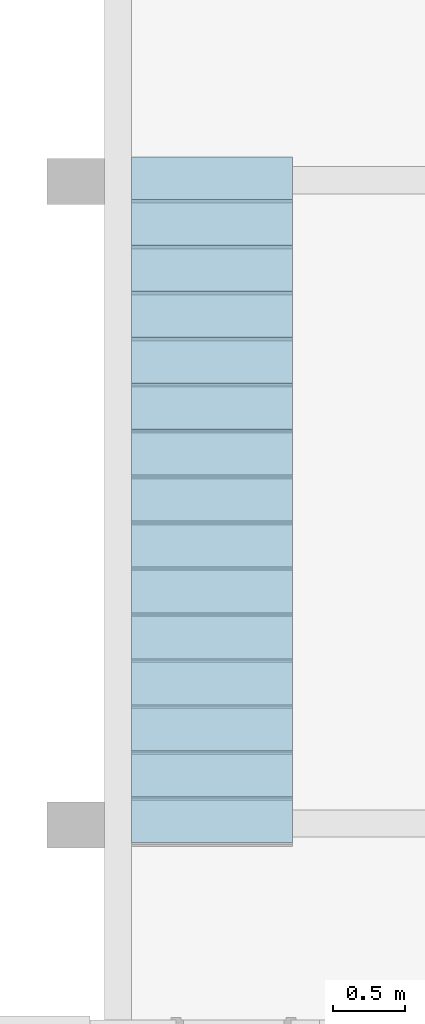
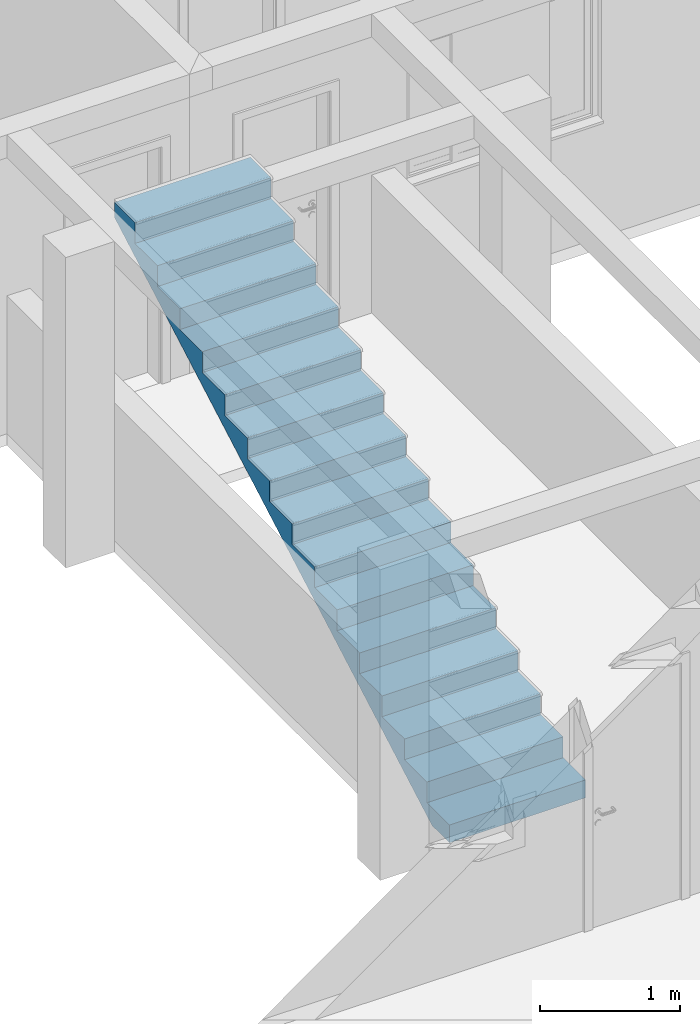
# One storey, part 47 of 47: 1 stair flight, 1 element without a shape of its own.
"""IFC2X3 building model written with IfcOpenShell, lengths in millimetres."""

from ifc_helpers import new_model, entity, si_unit, converted_unit, derived_unit, money_unit, direction, frame, origin_with_axes, place, context, subcontext, project, spatial, faceted_brep, material, type_object, element, aggregate, save


model = new_model("IFC2X3")

# Units and contexts
model_context = context("Model", 3, precision=0.01, world=origin_with_axes(), true_north=direction((0.0, 1.0)))
body_context = subcontext(model_context, "Body", "Model", "MODEL_VIEW")
ifc_project = project(units=[si_unit("LENGTHUNIT", "METRE", prefix="MILLI"), si_unit("AREAUNIT", "SQUARE_METRE"), si_unit("VOLUMEUNIT", "CUBIC_METRE"), converted_unit("PLANEANGLEUNIT", "DEGREE", entity("IfcPlaneAngleMeasure", 0.0174532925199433), si_unit("PLANEANGLEUNIT", "RADIAN"), dimensions=[0, 0, 0, 0, 0, 0, 0]), money_unit("USD"), converted_unit("TIMEUNIT", "Year", entity("IfcTimeMeasure", 31557600.0), si_unit("TIMEUNIT", "SECOND"), dimensions=[0, 0, 1, 0, 0, 0, 0]), si_unit("MASSUNIT", "GRAM", prefix="KILO"), si_unit("THERMODYNAMICTEMPERATUREUNIT", "DEGREE_CELSIUS"), si_unit("LUMINOUSINTENSITYUNIT", "LUMEN"), si_unit("ENERGYUNIT", "JOULE", prefix="MEGA"), derived_unit("THERMALCONDUCTANCEUNIT", [(si_unit("POWERUNIT", "WATT"), 1), (si_unit("LENGTHUNIT", "METRE"), -1), (si_unit("THERMODYNAMICTEMPERATUREUNIT", "KELVIN"), -1)]), derived_unit("SPECIFICHEATCAPACITYUNIT", [(si_unit("ENERGYUNIT", "JOULE"), 1), (si_unit("MASSUNIT", "GRAM", prefix="KILO"), -1), (si_unit("THERMODYNAMICTEMPERATUREUNIT", "KELVIN"), -1)]), derived_unit("MASSDENSITYUNIT", [(si_unit("MASSUNIT", "GRAM", prefix="KILO"), 1), (si_unit("VOLUMEUNIT", "CUBIC_METRE"), -1)])], contexts=[model_context])

# Site, building, storey
site_placement = place(None, origin_with_axes())
site = spatial("IfcSite", under=ifc_project, at=site_placement, Name="Local", CompositionType="ELEMENT")
building_placement = place(site_placement, origin_with_axes())
building = spatial("IfcBuilding", under=site, at=building_placement, Name="Construção", CompositionType="ELEMENT")
storey_placement = place(building_placement, origin_with_axes())
storey = spatial("IfcBuildingStorey", under=building, at=storey_placement, Name="Pavimento Tipo", CompositionType="ELEMENT", Elevation=0.0)

# Stair, stair flight
stair_placement = place(storey_placement, frame((-457.4330024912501, 6396.981417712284, 0.0), z_axis=(0.0, 0.0, 1.0), x_axis=(1.0, 0.0, 0.0)))
stair = element("IfcStair", 1, at=stair_placement, inside=storey, Name="Núcleo - Escada - 001", ShapeType="NOTDEFINED")
ifc_material = material(Name="Concreto - Estrutural")
stair_flight_type = type_object("IfcStairFlightType", Name="IfcStairFlight", PredefinedType="NOTDEFINED")
stair_flight_placement = place(stair_placement, origin_with_axes())
stair_flight = element("IfcStairFlight", 2, at=stair_flight_placement, type_object=stair_flight_type, material=ifc_material, Name="Núcleo - Lance - 002", context=body_context, shape_type="Brep", body=[
    faceted_brep([(1120.0, 4640.000000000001, 2456.146501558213), (1120.0, 4720.0, 2501.146501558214), (1120.0, 4800.0, 2546.146501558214), (1120.0, 4800.0, 2675.0), (1120.0, 4505.1, 2675.0), (1120.0, 4505.1, 2495.0), (1120.0, 4185.1, 2495.0), (1120.0, 4185.1, 2315.0), (1120.0, 3865.1, 2315.0), (1120.0, 3865.1, 2135.0), (1120.0, 3545.1, 2135.0), (1120.0, 3545.1, 1955.0), (1120.0, 3225.100000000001, 1955.0), (1120.0, 3225.100000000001, 1775.0), (1120.0, 2905.1, 1775.0), (1120.0, 2905.1, 1595.0), (1120.0, 2585.1, 1595.0), (1120.0, 2585.1, 1415.0), (1120.0, 2265.1, 1415.0), (1120.0, 2265.1, 1235.0), (1120.0, 1945.1, 1235.0), (1120.0, 1945.1, 1055.0), (1120.0, 1625.1, 1055.0), (1120.0, 1625.1, 875.0), (1120.0, 1305.1, 875.0), (1120.0, 1305.1, 695.0000000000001), (1120.0, 985.1000000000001, 695.0000000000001), (1120.0, 985.1000000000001, 515.0000000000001), (1120.0, 665.0999999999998, 515.0000000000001), (1120.0, 665.0999999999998, 334.9999999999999), (1120.0, 345.1000000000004, 334.9999999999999), (1120.0, 345.1000000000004, 155.0000000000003), (1120.0, 25.10000000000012, 155.0000000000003), (1120.0, 25.10000000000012, 0.0), (1120.0, 273.517330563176, 0.0), (1120.0, 320.0000000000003, 26.14650155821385), (1120.0, 400.0000000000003, 71.14650155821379), (1120.0, 480.0, 116.1465015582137), (1120.0, 559.9999999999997, 161.1465015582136), (1120.0, 639.9999999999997, 206.1465015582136), (1120.0, 719.9999999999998, 251.1465015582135), (1120.0, 799.9999999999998, 296.1465015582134), (1120.0, 879.9999999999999, 341.1465015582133), (1120.0, 960.0, 386.1465015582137), (1120.0, 1040.0, 431.1465015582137), (1120.0, 1120.0, 476.1465015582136), (1120.0, 1200.0, 521.1465015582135), (1120.0, 1280.0, 566.1465015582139), (1120.0, 1360.0, 611.1465015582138), (1120.0, 1440.0, 656.1465015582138), (1120.0, 1520.0, 701.1465015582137), (1120.0, 1600.0, 746.1465015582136), (1120.0, 1680.0, 791.1465015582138), (1120.0, 1760.0, 836.1465015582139), (1120.0, 1840.0, 881.1465015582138), (1120.0, 1920.0, 926.1465015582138), (1120.0, 2000.0, 971.1465015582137), (1120.0, 2080.0, 1016.146501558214), (1120.0, 2160.0, 1061.146501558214), (1120.0, 2240.0, 1106.146501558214), (1120.0, 2320.0, 1151.146501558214), (1120.0, 2400.0, 1196.146501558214), (1120.0, 2480.0, 1241.146501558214), (1120.0, 2560.0, 1286.146501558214), (1120.0, 2640.0, 1331.146501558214), (1120.0, 2720.0, 1376.146501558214), (1120.0, 2800.0, 1421.146501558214), (1120.0, 2880.0, 1466.146501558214), (1120.0, 2960.0, 1511.146501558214), (1120.0, 3040.0, 1556.146501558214), (1120.0, 3120.0, 1601.146501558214), (1120.0, 3200.0, 1646.146501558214), (1120.0, 3280.000000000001, 1691.146501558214), (1120.0, 3360.0, 1736.146501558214), (1120.0, 3440.0, 1781.146501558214), (1120.0, 3520.0, 1826.146501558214), (1120.0, 3599.999999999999, 1871.146501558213), (1120.0, 3680.0, 1916.146501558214), (1120.0, 3760.0, 1961.146501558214), (1120.0, 3840.0, 2006.146501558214), (1120.0, 3920.0, 2051.146501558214), (1120.0, 4000.0, 2096.146501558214), (1120.0, 4080.0, 2141.146501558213), (1120.0, 4160.0, 2186.146501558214), (1120.0, 4240.0, 2231.146501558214), (1120.0, 4320.0, 2276.146501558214), (1120.0, 4400.0, 2321.146501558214), (1120.0, 4480.0, 2366.146501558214), (1120.0, 4560.000000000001, 2411.146501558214), (0.0, 4720.0, 2501.146501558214), (0.0, 4640.000000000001, 2456.146501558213), (0.0, 4800.0, 2546.146501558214), (0.0, 4800.0, 2675.0), (0.0, 4505.1, 2675.0), (0.0, 4505.1, 2495.0), (0.0, 4185.1, 2495.0), (0.0, 4185.1, 2315.0), (0.0, 3865.1, 2315.0), (0.0, 3865.1, 2135.0), (0.0, 3545.1, 2135.0), (0.0, 3545.1, 1955.0), (0.0, 3225.100000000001, 1955.0), (0.0, 3225.100000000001, 1775.0), (0.0, 2905.1, 1775.0), (0.0, 2905.1, 1595.0), (0.0, 2585.1, 1595.0), (0.0, 2585.1, 1415.0), (0.0, 2265.1, 1415.0), (0.0, 2265.1, 1235.0), (0.0, 1945.1, 1235.0), (0.0, 1945.1, 1055.0), (0.0, 1625.1, 1055.0), (0.0, 1625.1, 875.0), (0.0, 1305.1, 875.0), (0.0, 1305.1, 695.0000000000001), (0.0, 985.1000000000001, 695.0000000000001), (0.0, 985.1000000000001, 515.0000000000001), (0.0, 665.0999999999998, 515.0000000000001), (0.0, 665.0999999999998, 334.9999999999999), (0.0, 345.1000000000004, 334.9999999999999), (0.0, 345.1000000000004, 155.0000000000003), (0.0, 25.10000000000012, 155.0000000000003), (0.0, 25.10000000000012, 0.0), (0.0, 273.517330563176, 0.0), (0.0, 320.0000000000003, 26.14650155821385), (0.0, 400.0000000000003, 71.14650155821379), (0.0, 480.0, 116.1465015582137), (0.0, 559.9999999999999, 161.1465015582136), (0.0, 639.9999999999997, 206.1465015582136), (0.0, 719.9999999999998, 251.1465015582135), (0.0, 799.9999999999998, 296.1465015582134), (0.0, 879.9999999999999, 341.1465015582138), (0.0, 960.0, 386.1465015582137), (0.0, 1040.0, 431.1465015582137), (0.0, 1120.0, 476.1465015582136), (0.0, 1200.0, 521.1465015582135), (0.0, 1280.0, 566.1465015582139), (0.0, 1360.0, 611.1465015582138), (0.0, 1440.0, 656.1465015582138), (0.0, 1520.0, 701.1465015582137), (0.0, 1600.0, 746.1465015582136), (0.0, 1680.0, 791.1465015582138), (0.0, 1760.0, 836.1465015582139), (0.0, 1840.0, 881.1465015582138), (0.0, 1920.0, 926.1465015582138), (0.0, 2000.0, 971.1465015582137), (0.0, 2080.0, 1016.146501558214), (0.0, 2160.0, 1061.146501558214), (0.0, 2240.0, 1106.146501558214), (0.0, 2320.0, 1151.146501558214), (0.0, 2400.0, 1196.146501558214), (0.0, 2480.0, 1241.146501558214), (0.0, 2560.0, 1286.146501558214), (0.0, 2640.0, 1331.146501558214), (0.0, 2720.0, 1376.146501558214), (0.0, 2800.0, 1421.146501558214), (0.0, 2880.0, 1466.146501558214), (0.0, 2960.0, 1511.146501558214), (0.0, 3040.0, 1556.146501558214), (0.0, 3120.0, 1601.146501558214), (0.0, 3200.0, 1646.146501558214), (0.0, 3280.000000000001, 1691.146501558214), (0.0, 3360.0, 1736.146501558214), (0.0, 3440.0, 1781.146501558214), (0.0, 3520.0, 1826.146501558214), (0.0, 3599.999999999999, 1871.146501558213), (0.0, 3680.0, 1916.146501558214), (0.0, 3760.0, 1961.146501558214), (0.0, 3840.0, 2006.146501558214), (0.0, 3920.0, 2051.146501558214), (0.0, 4000.0, 2096.146501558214), (0.0, 4080.0, 2141.146501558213), (0.0, 4160.0, 2186.146501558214), (0.0, 4240.0, 2231.146501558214), (0.0, 4320.0, 2276.146501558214), (0.0, 4400.0, 2321.146501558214), (0.0, 4480.0, 2366.146501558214), (0.0, 4560.000000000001, 2411.146501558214)], [[[0, 1, 2, 3, 4, 5, 6, 7, 8, 9, 10, 11, 12, 13, 14, 15, 16, 17, 18, 19, 20, 21, 22, 23, 24, 25, 26, 27, 28, 29, 30, 31, 32, 33, 34, 35, 36, 37, 38, 39, 40, 41, 42, 43, 44, 45, 46, 47, 48, 49, 50, 51, 52, 53, 54, 55, 56, 57, 58, 59, 60, 61, 62, 63, 64, 65, 66, 67, 68, 69, 70, 71, 72, 73, 74, 75, 76, 77, 78, 79, 80, 81, 82, 83, 84, 85, 86, 87, 88]], [[89, 1, 0, 90]], [[91, 2, 1, 89]], [[3, 2, 91, 92]], [[3, 92, 93, 4]], [[93, 94, 5, 4]], [[95, 6, 5, 94]], [[95, 96, 7, 6]], [[97, 8, 7, 96]], [[97, 98, 9, 8]], [[99, 10, 9, 98]], [[99, 100, 11, 10]], [[101, 12, 11, 100]], [[101, 102, 13, 12]], [[103, 14, 13, 102]], [[103, 104, 15, 14]], [[105, 16, 15, 104]], [[105, 106, 17, 16]], [[107, 18, 17, 106]], [[107, 108, 19, 18]], [[109, 20, 19, 108]], [[109, 110, 21, 20]], [[111, 22, 21, 110]], [[111, 112, 23, 22]], [[113, 24, 23, 112]], [[113, 114, 25, 24]], [[115, 26, 25, 114]], [[115, 116, 27, 26]], [[117, 28, 27, 116]], [[117, 118, 29, 28]], [[119, 30, 29, 118]], [[119, 120, 31, 30]], [[121, 32, 31, 120]], [[122, 33, 32, 121]], [[34, 33, 122, 123]], [[124, 35, 34, 123]], [[125, 36, 35, 124]], [[126, 37, 36, 125]], [[127, 38, 37, 126]], [[128, 39, 38, 127]], [[129, 40, 39, 128]], [[130, 41, 40, 129]], [[131, 42, 41, 130]], [[132, 43, 42, 131]], [[133, 44, 43, 132]], [[134, 45, 44, 133]], [[135, 46, 45, 134]], [[136, 47, 46, 135]], [[137, 48, 47, 136]], [[138, 49, 48, 137]], [[139, 50, 49, 138]], [[140, 51, 50, 139]], [[141, 52, 51, 140]], [[142, 53, 52, 141]], [[143, 54, 53, 142]], [[144, 55, 54, 143]], [[145, 56, 55, 144]], [[146, 57, 56, 145]], [[147, 58, 57, 146]], [[148, 59, 58, 147]], [[149, 60, 59, 148]], [[150, 61, 60, 149]], [[151, 62, 61, 150]], [[152, 63, 62, 151]], [[153, 64, 63, 152]], [[154, 65, 64, 153]], [[155, 66, 65, 154]], [[156, 67, 66, 155]], [[157, 68, 67, 156]], [[158, 69, 68, 157]], [[159, 70, 69, 158]], [[160, 71, 70, 159]], [[161, 72, 71, 160]], [[162, 73, 72, 161]], [[163, 74, 73, 162]], [[164, 75, 74, 163]], [[165, 76, 75, 164]], [[166, 77, 76, 165]], [[167, 78, 77, 166]], [[168, 79, 78, 167]], [[169, 80, 79, 168]], [[170, 81, 80, 169]], [[171, 82, 81, 170]], [[172, 83, 82, 171]], [[173, 84, 83, 172]], [[174, 85, 84, 173]], [[175, 86, 85, 174]], [[176, 87, 86, 175]], [[177, 88, 87, 176]], [[90, 0, 88, 177]], [[123, 122, 121, 120, 119, 118, 117, 116, 115, 114, 113, 112, 111, 110, 109, 108, 107, 106, 105, 104, 103, 102, 101, 100, 99, 98, 97, 96, 95, 94, 93, 92, 91, 89, 90, 177, 176, 175, 174, 173, 172, 171, 170, 169, 168, 167, 166, 165, 164, 163, 162, 161, 160, 159, 158, 157, 156, 155, 154, 153, 152, 151, 150, 149, 148, 147, 146, 145, 144, 143, 142, 141, 140, 139, 138, 137, 136, 135, 134, 133, 132, 131, 130, 129, 128, 127, 126, 125, 124]]]),
])
aggregate(stair, [stair_flight])

save(model, "model.ifc")
